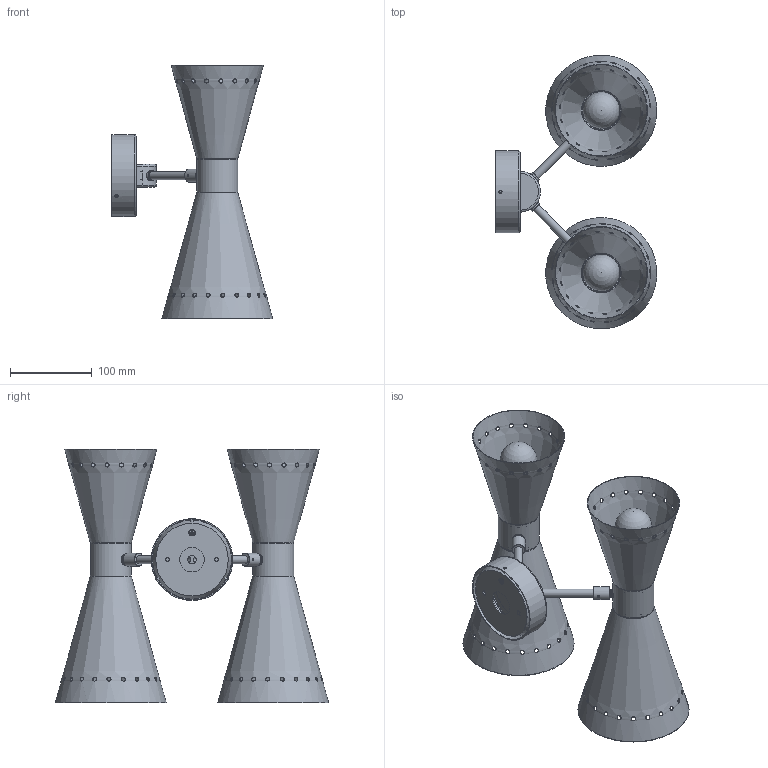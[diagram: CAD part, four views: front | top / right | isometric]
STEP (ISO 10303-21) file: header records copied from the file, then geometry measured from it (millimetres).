
FILE_DESCRIPTION(/* description */ ('Unknown'),/* implementation_level */ '2;1');
FILE_NAME(/* name */ '9572',/* time_stamp */ '2021-05-20T08:28:27+02:00',/* author */ ('Unknown'),/* organization */ ('Unknown'),/* preprocessor_version */ 'ST-DEVELOPER v16.7',/* originating_system */ 'DEX',/* authorisation */ $);
FILE_SCHEMA (('AUTOMOTIVE_DESIGN {1 0 10303 214 3 1 1}'));
Length unit declared in the file: millimetre
Products named in the file (22): 9572-9573; 152000379012; 152000391006; R2479-1; 011000149000; A1030-5; F1215-5; H1233-5; 151001700710; 131000171006; G1333-8; 155000725006; F1188-9; R2181-1; 131000167006; 152000387178; 155000727006; 210000004012; 152000386178; 005000023000; 005000009000; 005000022000
Assembly tree (44 placements, depth 2):
  9572-9573
    152000379012
    152000391006
    R2479-1  x3
    011000149000  x4
    A1030-5
    F1215-5
    H1233-5
    151001700710
    131000171006  x2
    G1333-8  x2
    155000725006  x2
    F1188-9  x2
    R2181-1  x2
    131000167006  x2
    152000387178  x2
    155000727006
    210000004012  x2
    152000386178  x2
    005000023000  x4
    005000009000  x4
    005000022000  x4
Bounding box: 197.31 x 334.18 x 310 mm (x, y, z)
Volume: 471669.2 mm3; surface area: 523497 mm2
Topology: 48 solids, 48 shells, 2402 faces, 6338 edges, 4153 vertices
Faces by surface type: plane 1528, cylinder 586, torus 137, cone 87, bspline 48, sphere 16
Full cylindrical faces by diameter (mm): 0.5 x4, 1.567 x4, 2 x4, 2.459 x5, 2.5 x24, 3 x14, 3.242 x5, 3.5 x8, 4 x7, 4.3 x2, 4.5 x5, 5 x78, 7 x5, 8 x4, 8.917 x4, 9.153 x2, 10 x10, 10.2 x4, 10.5 x4, 13 x2, 16 x6, 17 x4, 20 x4, 22.5 x20, 26 x8, 30 x1, 45.6 x2, 45.8 x2, 47 x4, 48 x2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
Entity records: 34972 total; most frequent: CARTESIAN_POINT 7804, DIRECTION 4450, ORIENTED_EDGE 4178, EDGE_CURVE 2089, AXIS2_PLACEMENT_3D 1661, VERTEX_POINT 1455, FACE_BOUND 1272, EDGE_LOOP 1269
